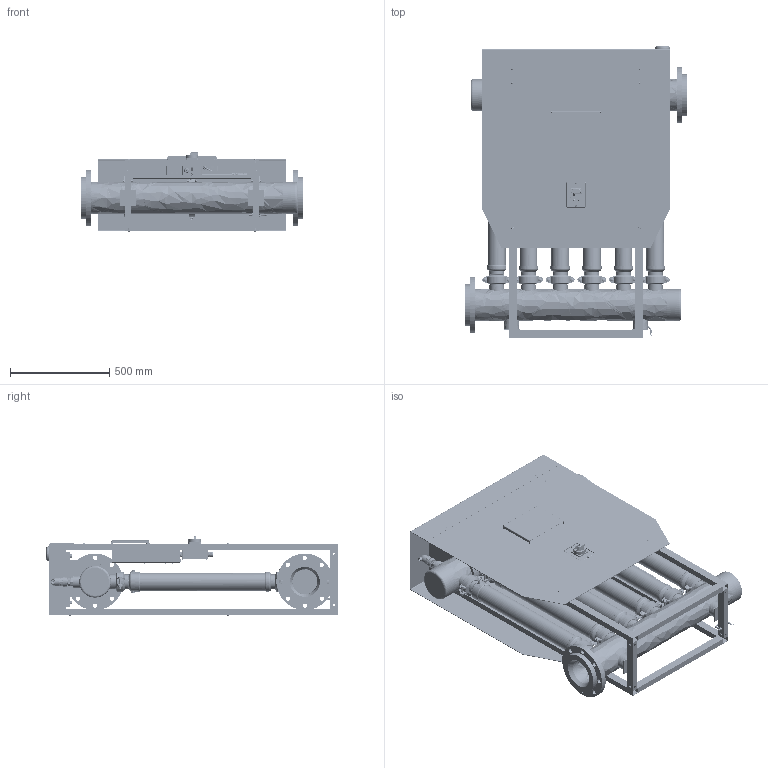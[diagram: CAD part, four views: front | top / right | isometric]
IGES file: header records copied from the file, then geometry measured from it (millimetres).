
Global section: file name: H-A Pro 50-60 M_3D_V1.0; native system: Autodesk Inventor 2024; preprocessor: unknown; author: Massimo Maselli; date: 20241104.120923; units: millimetre
Bounding box: 1122 x 1470 x 398.8 mm (x, y, z)
Volume: 40301563.1 mm3; surface area: 16488296.7 mm2
Topology: 202 solids, 202 shells, 13809 faces, 37503 edges, 24796 vertices
Faces by surface type: bspline 13809
